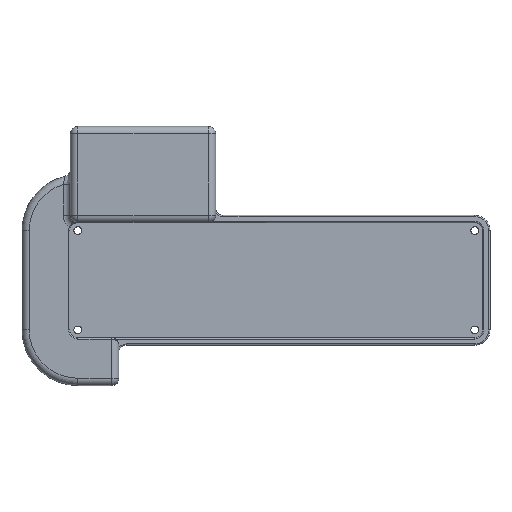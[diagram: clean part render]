
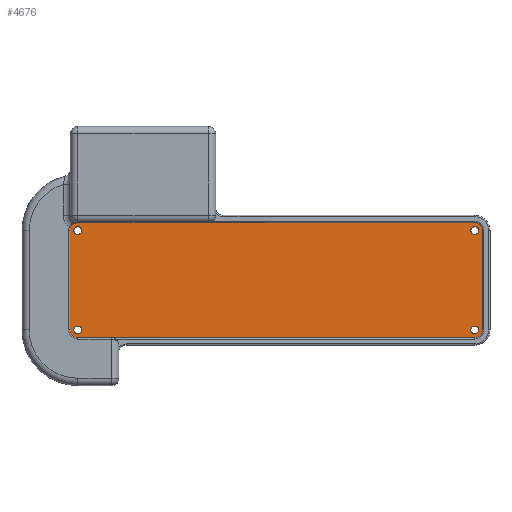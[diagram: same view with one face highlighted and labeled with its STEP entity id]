
A CAD part, top view. The second image highlights one B-rep face of the part: STEP entity #4676.
In plain terms, the highlighted planar face has unit normal (0, 0, 1).
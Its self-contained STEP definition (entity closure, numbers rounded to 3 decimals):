
#319=CARTESIAN_POINT('',(167.,44.,0.));
#320=DIRECTION('',(0.,0.,-1.));
#321=DIRECTION('',(-1.,0.,0.));
#322=AXIS2_PLACEMENT_3D('',#319,#320,#321);
#324=CARTESIAN_POINT('',(167.,44.,0.));
#325=DIRECTION('',(0.,0.,-1.));
#326=DIRECTION('',(1.,0.,0.));
#327=AXIS2_PLACEMENT_3D('',#324,#325,#326);
#329=CARTESIAN_POINT('',(3.,3.,0.));
#330=DIRECTION('',(0.,0.,-1.));
#331=DIRECTION('',(-1.,0.,0.));
#332=AXIS2_PLACEMENT_3D('',#329,#330,#331);
#334=CARTESIAN_POINT('',(3.,3.,0.));
#335=DIRECTION('',(0.,0.,-1.));
#336=DIRECTION('',(1.,0.,0.));
#337=AXIS2_PLACEMENT_3D('',#334,#335,#336);
#339=CARTESIAN_POINT('',(3.,44.,0.));
#340=DIRECTION('',(0.,0.,-1.));
#341=DIRECTION('',(-1.,0.,0.));
#342=AXIS2_PLACEMENT_3D('',#339,#340,#341);
#344=CARTESIAN_POINT('',(3.,44.,0.));
#345=DIRECTION('',(0.,0.,-1.));
#346=DIRECTION('',(1.,0.,0.));
#347=AXIS2_PLACEMENT_3D('',#344,#345,#346);
#349=CARTESIAN_POINT('',(167.,3.,0.));
#350=DIRECTION('',(0.,0.,-1.));
#351=DIRECTION('',(-1.,0.,0.));
#352=AXIS2_PLACEMENT_3D('',#349,#350,#351);
#354=CARTESIAN_POINT('',(167.,3.,0.));
#355=DIRECTION('',(0.,0.,-1.));
#356=DIRECTION('',(1.,0.,0.));
#357=AXIS2_PLACEMENT_3D('',#354,#355,#356);
#371=DIRECTION('',(1.,0.,0.));
#372=VECTOR('',#371,164.);
#373=CARTESIAN_POINT('',(3.,-0.3,0.));
#374=LINE('',#373,#372);
#403=CARTESIAN_POINT('',(167.,3.,0.));
#404=DIRECTION('',(0.,0.,-1.));
#405=DIRECTION('',(1.,0.,0.));
#406=AXIS2_PLACEMENT_3D('',#403,#404,#405);
#416=DIRECTION('',(0.,1.,0.));
#417=VECTOR('',#416,41.);
#418=CARTESIAN_POINT('',(170.3,3.,0.));
#419=LINE('',#418,#417);
#439=CARTESIAN_POINT('',(167.,44.,0.));
#440=DIRECTION('',(0.,0.,-1.));
#441=DIRECTION('',(0.,1.,0.));
#442=AXIS2_PLACEMENT_3D('',#439,#440,#441);
#462=DIRECTION('',(-1.,0.,0.));
#463=VECTOR('',#462,164.);
#464=CARTESIAN_POINT('',(167.,47.3,0.));
#465=LINE('',#464,#463);
#2994=CARTESIAN_POINT('',(3.,44.,0.));
#2995=DIRECTION('',(0.,0.,-1.));
#2996=DIRECTION('',(-1.,0.,0.));
#2997=AXIS2_PLACEMENT_3D('',#2994,#2995,#2996);
#3007=DIRECTION('',(0.,-1.,0.));
#3008=VECTOR('',#3007,41.);
#3009=CARTESIAN_POINT('',(-0.3,44.,0.));
#3010=LINE('',#3009,#3008);
#3030=CARTESIAN_POINT('',(3.,3.,0.));
#3031=DIRECTION('',(0.,0.,-1.));
#3032=DIRECTION('',(0.,-1.,0.));
#3033=AXIS2_PLACEMENT_3D('',#3030,#3031,#3032);
#3287=CARTESIAN_POINT('',(3.,-0.3,0.));
#3288=CARTESIAN_POINT('',(167.,-0.3,0.));
#3289=VERTEX_POINT('',#3287);
#3290=VERTEX_POINT('',#3288);
#3291=CARTESIAN_POINT('',(170.3,3.,0.));
#3292=VERTEX_POINT('',#3291);
#3293=CARTESIAN_POINT('',(170.3,44.,0.));
#3294=VERTEX_POINT('',#3293);
#3295=CARTESIAN_POINT('',(167.,47.3,0.));
#3296=VERTEX_POINT('',#3295);
#3297=CARTESIAN_POINT('',(3.,47.3,0.));
#3298=VERTEX_POINT('',#3297);
#3299=CARTESIAN_POINT('',(-0.3,44.,0.));
#3300=VERTEX_POINT('',#3299);
#3301=CARTESIAN_POINT('',(-0.3,3.,0.));
#3302=VERTEX_POINT('',#3301);
#3303=CARTESIAN_POINT('',(165.4,44.,0.));
#3304=CARTESIAN_POINT('',(168.6,44.,0.));
#3305=VERTEX_POINT('',#3303);
#3306=VERTEX_POINT('',#3304);
#3307=CARTESIAN_POINT('',(1.4,3.,0.));
#3308=CARTESIAN_POINT('',(4.6,3.,0.));
#3309=VERTEX_POINT('',#3307);
#3310=VERTEX_POINT('',#3308);
#3311=CARTESIAN_POINT('',(1.4,44.,0.));
#3312=CARTESIAN_POINT('',(4.6,44.,0.));
#3313=VERTEX_POINT('',#3311);
#3314=VERTEX_POINT('',#3312);
#3315=CARTESIAN_POINT('',(165.4,3.,0.));
#3316=CARTESIAN_POINT('',(168.6,3.,0.));
#3317=VERTEX_POINT('',#3315);
#3318=VERTEX_POINT('',#3316);
#4631=CARTESIAN_POINT('',(0.,0.,0.));
#4632=DIRECTION('',(0.,0.,-1.));
#4633=DIRECTION('',(-1.,0.,0.));
#4634=AXIS2_PLACEMENT_3D('',#4631,#4632,#4633);
#4635=PLANE('',#4634);
#4637=ORIENTED_EDGE('',*,*,#4636,.F.);
#4639=ORIENTED_EDGE('',*,*,#4638,.T.);
#4641=ORIENTED_EDGE('',*,*,#4640,.F.);
#4643=ORIENTED_EDGE('',*,*,#4642,.T.);
#4645=ORIENTED_EDGE('',*,*,#4644,.F.);
#4647=ORIENTED_EDGE('',*,*,#4646,.T.);
#4649=ORIENTED_EDGE('',*,*,#4648,.F.);
#4651=ORIENTED_EDGE('',*,*,#4650,.T.);
#4652=EDGE_LOOP('',(#4637,#4639,#4641,#4643,#4645,#4647,#4649,#4651));
#4653=FACE_OUTER_BOUND('',#4652,.F.);
#4654=ORIENTED_EDGE('',*,*,#4611,.F.);
#4655=ORIENTED_EDGE('',*,*,#4625,.F.);
#4656=EDGE_LOOP('',(#4654,#4655));
#4657=FACE_BOUND('',#4656,.F.);
#4659=ORIENTED_EDGE('',*,*,#4658,.F.);
#4661=ORIENTED_EDGE('',*,*,#4660,.F.);
#4662=EDGE_LOOP('',(#4659,#4661));
#4663=FACE_BOUND('',#4662,.F.);
#4665=ORIENTED_EDGE('',*,*,#4664,.F.);
#4667=ORIENTED_EDGE('',*,*,#4666,.F.);
#4668=EDGE_LOOP('',(#4665,#4667));
#4669=FACE_BOUND('',#4668,.F.);
#4671=ORIENTED_EDGE('',*,*,#4670,.F.);
#4673=ORIENTED_EDGE('',*,*,#4672,.F.);
#4674=EDGE_LOOP('',(#4671,#4673));
#4675=FACE_BOUND('',#4674,.F.);
#4676=ADVANCED_FACE('',(#4653,#4657,#4663,#4669,#4675),#4635,.F.);
#323=CIRCLE('',#322,1.6);
#328=CIRCLE('',#327,1.6);
#333=CIRCLE('',#332,1.6);
#338=CIRCLE('',#337,1.6);
#343=CIRCLE('',#342,1.6);
#348=CIRCLE('',#347,1.6);
#353=CIRCLE('',#352,1.6);
#358=CIRCLE('',#357,1.6);
#407=CIRCLE('',#406,3.3);
#443=CIRCLE('',#442,3.3);
#2998=CIRCLE('',#2997,3.3);
#3034=CIRCLE('',#3033,3.3);
#4611=EDGE_CURVE('',#3305,#3306,#323,.T.);
#4625=EDGE_CURVE('',#3306,#3305,#328,.T.);
#4636=EDGE_CURVE('',#3289,#3290,#374,.T.);
#4638=EDGE_CURVE('',#3289,#3302,#3034,.T.);
#4640=EDGE_CURVE('',#3300,#3302,#3010,.T.);
#4642=EDGE_CURVE('',#3300,#3298,#2998,.T.);
#4644=EDGE_CURVE('',#3296,#3298,#465,.T.);
#4646=EDGE_CURVE('',#3296,#3294,#443,.T.);
#4648=EDGE_CURVE('',#3292,#3294,#419,.T.);
#4650=EDGE_CURVE('',#3292,#3290,#407,.T.);
#4658=EDGE_CURVE('',#3309,#3310,#333,.T.);
#4660=EDGE_CURVE('',#3310,#3309,#338,.T.);
#4664=EDGE_CURVE('',#3313,#3314,#343,.T.);
#4666=EDGE_CURVE('',#3314,#3313,#348,.T.);
#4670=EDGE_CURVE('',#3317,#3318,#353,.T.);
#4672=EDGE_CURVE('',#3318,#3317,#358,.T.);
